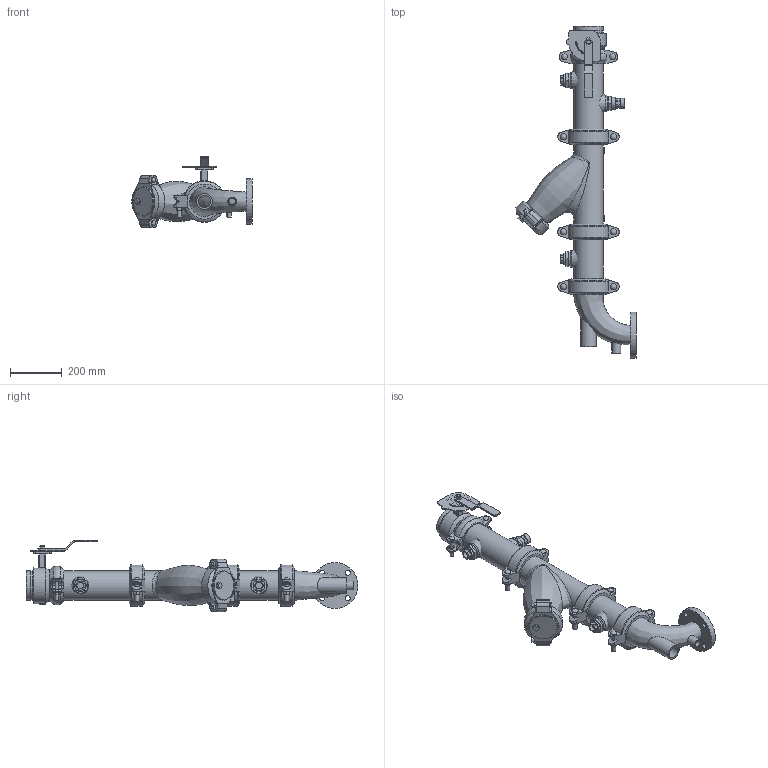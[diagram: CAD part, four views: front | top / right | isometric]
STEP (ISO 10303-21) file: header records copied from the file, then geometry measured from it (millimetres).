
FILE_DESCRIPTION(/* description */ ('VIC SVI PUMP DROP HORZ S/382 (OGSxFLG) (S/924-0.75)','CAx-IF Rec.Pracs.---Representation and Presentation of Product Manufacturing Information (PMI)---4.0---2014-10-13'),/* implementation_level */ '2;1');
FILE_NAME(/* name */ 'C:\Users\Vjadhav\AppData\Roaming\Autodesk\ApplicationPlugins\Victaulic.Temp\A562\Victaulic_IPS_Horizontal SVI_CL 150_Series 382 (OGSxFLG)_924 (0.75)_04.0x02.5 (100x65).stp',/* time_stamp */ '2022-02-28T19:57:21+05:00',/* author */ ('kkamble'),/* organization */ ('Victaulic'),/* preprocessor_version */ 'ST-DEVELOPER v17.2',/* originating_system */ 'Autodesk Inventor 2019',/* authorisation */ '');
FILE_SCHEMA (('AP242_MANAGED_MODEL_BASED_3D_ENGINEERING_MIM_LF { 1 0 10303 442 1 1 4 }'));
Length unit declared in the file: inch
Products named in the file (13): 382_924 (0.75)-04.0x02.5; PIPE-04.0; 107N-04.0; 732-04.0; 732-04.0_1; 07-04.0; 732-04.0_2; PIPE-04.0x02.0; 761-04.0; 924-04.0x0.75; 177N-04.0; 923-04.0x0.75; R100F-04.0x02.5
Assembly tree (15 placements, depth 3):
  382_924 (0.75)-04.0x02.5
    PIPE-04.0
    107N-04.0
    732-04.0
      732-04.0_1
      07-04.0
      732-04.0_2
    177N-04.0  x3
    PIPE-04.0x02.0
    761-04.0
    924-04.0x0.75
    923-04.0x0.75  x2
    R100F-04.0x02.5
Bounding box: 464.88 x 1285.88 x 276.13 mm (x, y, z)
Volume: 7956155 mm3; surface area: 1776134.6 mm2
Topology: 14 solids, 17 shells, 858 faces, 2230 edges, 1488 vertices
Faces by surface type: plane 482, cylinder 285, torus 28, cone 27, bspline 26, sphere 10
Full cylindrical faces by diameter (mm): 4.826 x10, 8.636 x4, 12.7 x8, 14.986 x2, 15.875 x6, 19.05 x4, 22.225 x4, 22.86 x1, 23.495 x6, 25.4 x3, 26.67 x4, 34.29 x1, 38.608 x1, 45.974 x6, 48.26 x1, 55.118 x1, 55.626 x3, 60.96 x1, 62.713 x1, 95.25 x1, 98.831 x1, 99.06 x1, 101.6 x4, 102.26 x4, 107.95 x1, 110.084 x11, 114.3 x26, 139.7 x1, 177.8 x1
Entity records: 24802 total; most frequent: CARTESIAN_POINT 7961, DIRECTION 3421, ORIENTED_EDGE 3200, EDGE_CURVE 1600, AXIS2_PLACEMENT_3D 1297, VERTEX_POINT 1074, LINE 827, VECTOR 827
